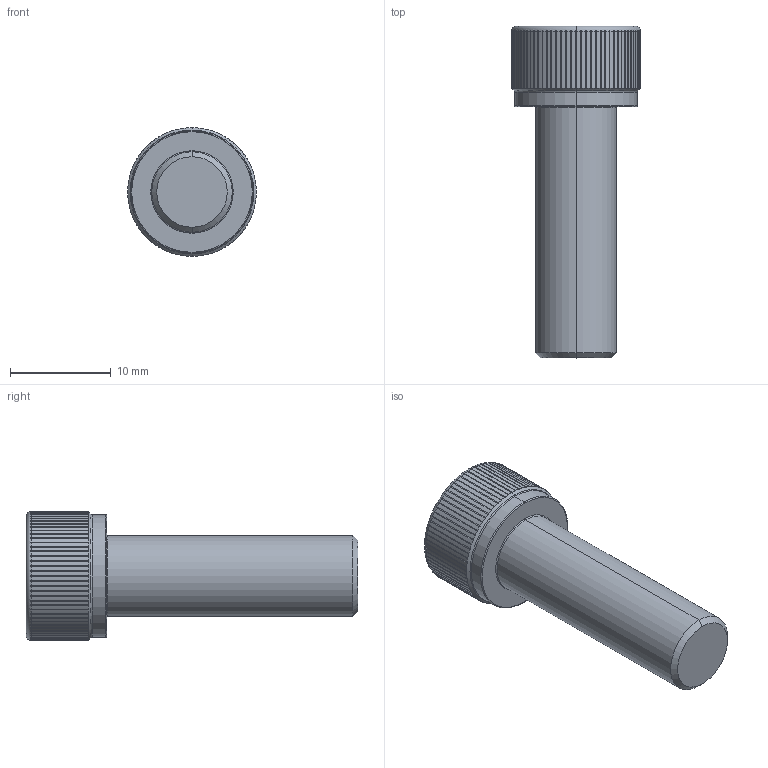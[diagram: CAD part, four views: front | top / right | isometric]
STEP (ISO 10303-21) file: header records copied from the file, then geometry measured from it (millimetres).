
FILE_DESCRIPTION (( 'STEP AP203' ), '1' );
FILE_NAME ('LGDT-304-M8x25.STEP', '2026-08-10T06:41:05', ( '' ), ( '' ), 'SwSTEP 2.0', 'SolidWorks 2020', '' );
FILE_SCHEMA (( 'CONFIG_CONTROL_DESIGN' ));
Length unit declared in the file: millimetre
Products named in the file (1): LGDT-304-M8x25
Bounding box: 12.8 x 33 x 12.8 mm (x, y, z)
Volume: 2105.1 mm3; surface area: 1281.9 mm2
Topology: 1 solids, 1 shells, 204 faces, 576 edges, 376 vertices
Faces by surface type: cylinder 175, cone 11, plane 10, torus 8
Entity records: 8367 total; most frequent: CARTESIAN_POINT 3208, ORIENTED_EDGE 1152, DIRECTION 988, EDGE_CURVE 576, AXIS2_PLACEMENT_3D 398, VERTEX_POINT 376, EDGE_LOOP 206, FACE_OUTER_BOUND 204
